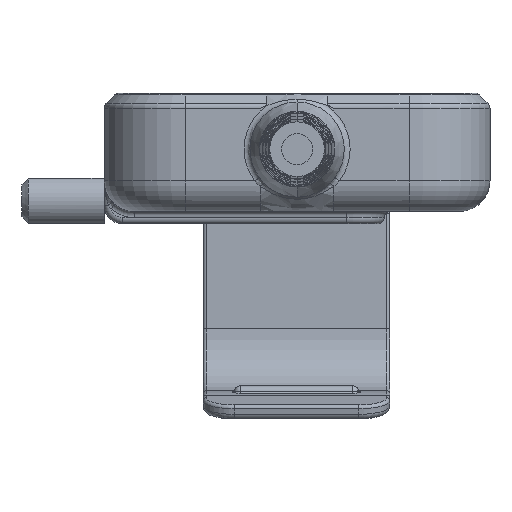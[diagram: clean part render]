
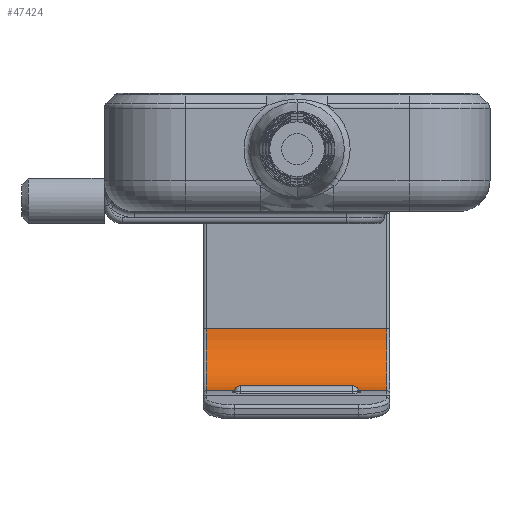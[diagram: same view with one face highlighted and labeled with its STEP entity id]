
A CAD part, front view. The second image highlights one B-rep face of the part: STEP entity #47424.
In plain terms, the highlighted cylindrical face has radius 10 mm (diameter 20 mm), a partial arc.
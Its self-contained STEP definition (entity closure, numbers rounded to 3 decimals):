
#1205 = CIRCLE ( 'NONE', #3323, 10. ) ;
#1244 = CIRCLE ( 'NONE', #3344, 10. ) ;
#1905 = FACE_OUTER_BOUND ( 'NONE', #53777, .T. ) ;
#1909 = CYLINDRICAL_SURFACE ( 'NONE', #3642, 10. ) ;
#2418 = CARTESIAN_POINT ( 'NONE',  ( 14.4, 156., -18.85 ) ) ;
#2420 = CARTESIAN_POINT ( 'NONE',  ( 14.4, 146., -28.85 ) ) ;
#2429 = CARTESIAN_POINT ( 'NONE',  ( -14.6, 156., -18.85 ) ) ;
#2438 = CARTESIAN_POINT ( 'NONE',  ( -14.6, 146., -28.85 ) ) ;
#3323 = AXIS2_PLACEMENT_3D ( 'NONE', #20886, #20895, #20896 ) ;
#3344 = AXIS2_PLACEMENT_3D ( 'NONE', #20966, #20976, #20977 ) ;
#3642 = AXIS2_PLACEMENT_3D ( 'NONE', #39343, #39354, #39351 ) ;
#7439 = ORIENTED_EDGE ( 'NONE', *, *, #56805, .T. ) ;
#7441 = ORIENTED_EDGE ( 'NONE', *, *, #45256, .T. ) ;
#7443 = ORIENTED_EDGE ( 'NONE', *, *, #56807, .F. ) ;
#7444 = ORIENTED_EDGE ( 'NONE', *, *, #45191, .T. ) ;
#20886 = CARTESIAN_POINT ( 'NONE',  ( 14.4, 146., -18.85 ) ) ;
#20895 = DIRECTION ( 'NONE',  ( 1., 0., 0. ) ) ;
#20896 = DIRECTION ( 'NONE',  ( 0., 0., -1. ) ) ;
#20966 = CARTESIAN_POINT ( 'NONE',  ( -14.6, 146., -18.85 ) ) ;
#20976 = DIRECTION ( 'NONE',  ( -1., 0., 0. ) ) ;
#20977 = DIRECTION ( 'NONE',  ( 0., 0., -1. ) ) ;
#39343 = CARTESIAN_POINT ( 'NONE',  ( 14.9, 146., -18.85 ) ) ;
#39351 = DIRECTION ( 'NONE',  ( 0., 0., 1. ) ) ;
#39354 = DIRECTION ( 'NONE',  ( -1., 0., 0. ) ) ;
#42215 = LINE ( 'NONE', #56259, #42330 ) ;
#42330 = VECTOR ( 'NONE', #56316, 1000. ) ;
#42338 = LINE ( 'NONE', #56319, #42340 ) ;
#42340 = VECTOR ( 'NONE', #56320, 1000. ) ;
#45191 = EDGE_CURVE ( 'NONE', #51386, #51382, #1205, .T. ) ;
#45256 = EDGE_CURVE ( 'NONE', #51423, #51419, #1244, .T. ) ;
#47424 = ADVANCED_FACE ( 'NONE', ( #1905 ), #1909, .F. ) ;
#51382 = VERTEX_POINT ( 'NONE', #2418 ) ;
#51386 = VERTEX_POINT ( 'NONE', #2420 ) ;
#51419 = VERTEX_POINT ( 'NONE', #2438 ) ;
#51423 = VERTEX_POINT ( 'NONE', #2429 ) ;
#53777 = EDGE_LOOP ( 'NONE', ( #7439, #7441, #7443, #7444 ) ) ;
#56259 = CARTESIAN_POINT ( 'NONE',  ( 14.9, 156., -18.85 ) ) ;
#56316 = DIRECTION ( 'NONE',  ( -1., 0., 0. ) ) ;
#56319 = CARTESIAN_POINT ( 'NONE',  ( 14.9, 146., -28.85 ) ) ;
#56320 = DIRECTION ( 'NONE',  ( -1., 0., 0. ) ) ;
#56805 = EDGE_CURVE ( 'NONE', #51382, #51423, #42215, .T. ) ;
#56807 = EDGE_CURVE ( 'NONE', #51386, #51419, #42338, .T. ) ;
